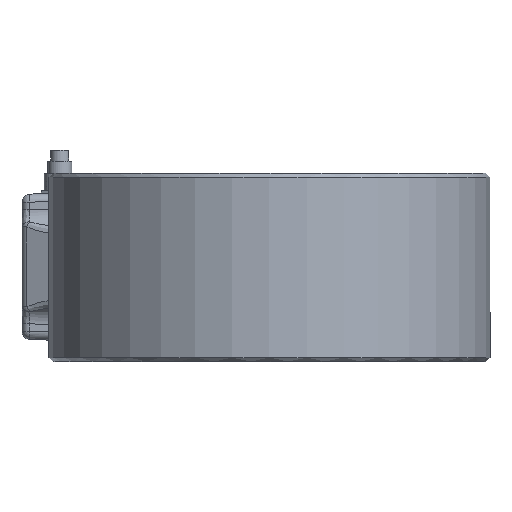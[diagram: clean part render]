
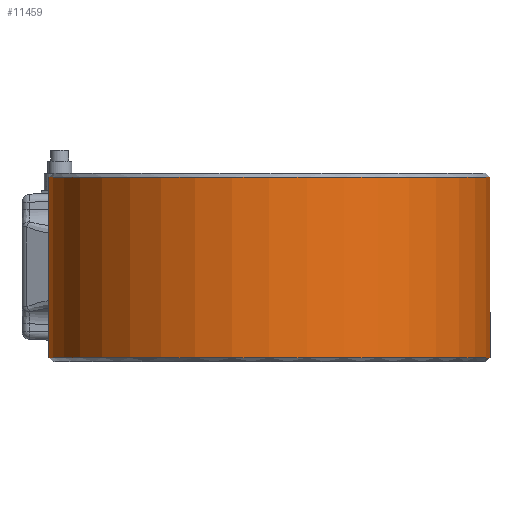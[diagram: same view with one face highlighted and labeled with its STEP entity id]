
A CAD part, left-side view. The second image highlights one B-rep face of the part: STEP entity #11459.
In plain terms, the highlighted cylindrical face has radius 82 mm (diameter 164 mm), a partial arc.
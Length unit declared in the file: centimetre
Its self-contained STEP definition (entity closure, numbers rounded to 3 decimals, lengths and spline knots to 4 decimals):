
#2185=VECTOR('',#15602,1.);
#2187=VECTOR('',#15604,1.);
#2719=LINE('',#45055,#2185);
#2721=LINE('',#45067,#2187);
#3810=VERTEX_POINT('',#45042);
#3811=VERTEX_POINT('',#45044);
#3815=VERTEX_POINT('',#45056);
#3818=VERTEX_POINT('',#45066);
#4473=CIRCLE('',#12729,8.2);
#4477=CIRCLE('',#12735,8.2);
#5957=EDGE_CURVE('',#3810,#3811,#4473,.T.);
#5962=EDGE_CURVE('',#3811,#3815,#2719,.T.);
#5966=EDGE_CURVE('',#3810,#3818,#2721,.T.);
#5968=EDGE_CURVE('',#3815,#3818,#4477,.T.);
#8934=ORIENTED_EDGE('',*,*,#5957,.F.);
#8935=ORIENTED_EDGE('',*,*,#5966,.T.);
#8936=ORIENTED_EDGE('',*,*,#5968,.F.);
#8937=ORIENTED_EDGE('',*,*,#5962,.F.);
#9834=EDGE_LOOP('',(#8934,#8935,#8936,#8937));
#10726=FACE_BOUND('',#9834,.T.);
#11459=ADVANCED_FACE('',(#10726),#45347,.T.);
#12729=AXIS2_PLACEMENT_3D('',#45043,#15593,#15594);
#12734=AXIS2_PLACEMENT_3D('',#45069,#15606,#15607);
#12735=AXIS2_PLACEMENT_3D('',#45070,#15608,#15609);
#15593=DIRECTION('',(0.,0.,1.));
#15594=DIRECTION('',(-8.2,0.,0.));
#15602=DIRECTION('',(0.,0.,-1.));
#15604=DIRECTION('',(0.,0.,-1.));
#15606=DIRECTION('',(0.,0.,-1.));
#15607=DIRECTION('',(-8.2,0.,0.));
#15608=DIRECTION('',(0.,0.,-1.));
#15609=DIRECTION('',(-8.2,0.,0.));
#45042=CARTESIAN_POINT('',(-5.519,-4.9693,5.5968));
#45043=CARTESIAN_POINT('',(-13.519,-6.7693,5.5968));
#45044=CARTESIAN_POINT('',(-5.519,-8.5693,5.5968));
#45055=CARTESIAN_POINT('',(-5.519,-8.5693,5.7468));
#45056=CARTESIAN_POINT('',(-5.519,-8.5693,-1.1032));
#45066=CARTESIAN_POINT('',(-5.519,-4.9693,-1.1032));
#45067=CARTESIAN_POINT('',(-5.519,-4.9693,5.7468));
#45069=CARTESIAN_POINT('',(-13.519,-6.7693,5.7468));
#45070=CARTESIAN_POINT('',(-13.519,-6.7693,-1.1032));
#45347=CYLINDRICAL_SURFACE('',#12734,8.2);
